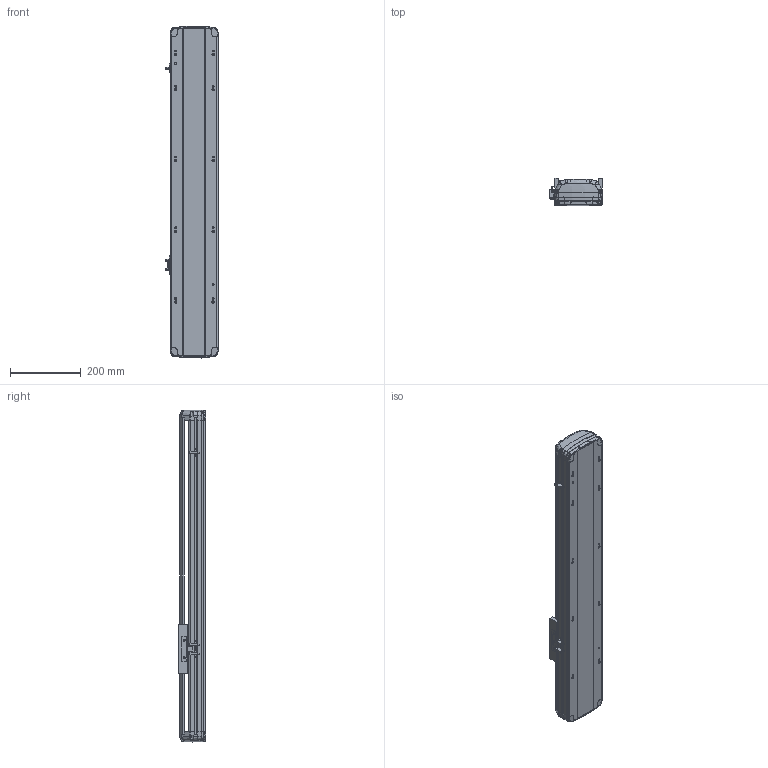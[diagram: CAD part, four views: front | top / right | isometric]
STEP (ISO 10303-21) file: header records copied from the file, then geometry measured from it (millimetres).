
FILE_DESCRIPTION (( 'STEP AP214' ), '1' );
FILE_NAME ('RTH14-XX-550-B-M20-C4.STEP', '2025-10-25T02:21:14', ( 'Microsoft' ), ( 'Microsoft' ), 'SwSTEP 2.0', 'SolidWorks 2018', '' );
FILE_SCHEMA (( 'AUTOMOTIVE_DESIGN' ));
Length unit declared in the file: millimetre
Products named in the file (7): N_RTH14-GY-001P^RTH14-XX-XX-B-M20-C4; N_RTH14-B-007奻裔^RTH14-XX-XX-B-M20-C4; N_RTH13-L-012感应片（外置）^RTH14-XX-XX-B-M20-C4; N_RTH14-R-004-SFSR16賑釱^RTH14-XX-XX-B-M20-C4; RTH14-XX-550-B-M20-C4; N_OMRON EE-SX672 传感器^RTH14-XX-XX-B-M20-C4; N_RTH14-B-011P菁釱^RTH14-XX-XX-B-M20-C4
Assembly tree (9 placements, depth 2):
  RTH14-XX-550-B-M20-C4
    N_RTH14-B-011P菁釱^RTH14-XX-XX-B-M20-C4
    N_RTH14-B-007奻裔^RTH14-XX-XX-B-M20-C4
    N_RTH13-L-012感应片（外置）^RTH14-XX-XX-B-M20-C4
    N_OMRON EE-SX672 传感器^RTH14-XX-XX-B-M20-C4  x3
    N_RTH14-R-004-SFSR16賑釱^RTH14-XX-XX-B-M20-C4
    N_RTH14-GY-001P^RTH14-XX-XX-B-M20-C4  x2
Bounding box: 148.5 x 78.03 x 938.74 mm (x, y, z)
Volume: 3901474.8 mm3; surface area: 905535.2 mm2
Topology: 9 solids, 9 shells, 1918 faces, 5404 edges, 3518 vertices
Faces by surface type: plane 979, bspline 450, cylinder 425, cone 56, torus 8
Entity records: 46660 total; most frequent: CARTESIAN_POINT 20866, ORIENTED_EDGE 5824, DIRECTION 4275, EDGE_CURVE 2912, VERTEX_POINT 1904, VECTOR 1639, LINE 1639, AXIS2_PLACEMENT_3D 1318
